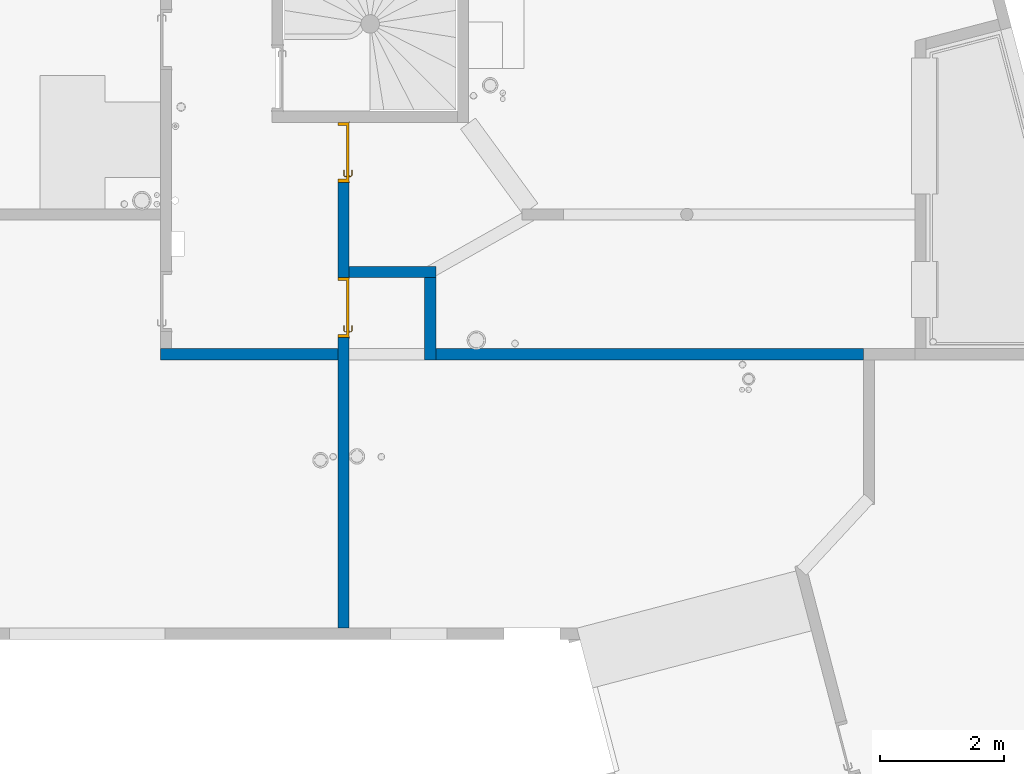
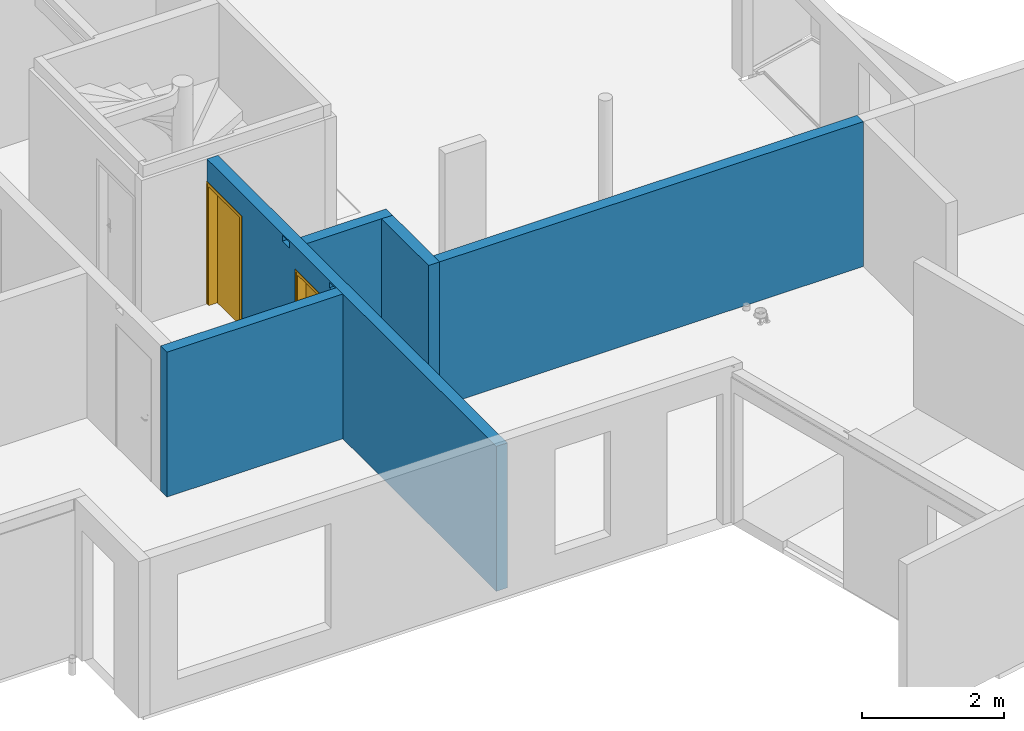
# One storey, part 13 of 24: 5 walls, 2 doors, 4 openings.
"""IFC2X3 building model written with IfcOpenShell, lengths in centimetres."""

from ifc_helpers import new_model, entity, si_unit, converted_unit, derived_unit, direction, frame, frame_2d, origin, place, context, subcontext, project, spatial, rectangle, extrude, faceted_brep, source, transform, mapped, material, material_list, layer, layer_set, layer_usage, type_object, type_shapes, element, fill, save


model = new_model("IFC2X3")

# Units and contexts
model_context = context("Model", 3, precision=0.001, world=origin(), true_north=direction((6.12303176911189e-17, 1.0)))
body_context = subcontext(model_context, "Body", "Model", "MODEL_VIEW")
ifc_project = project(units=[si_unit("LENGTHUNIT", "METRE", prefix="CENTI"), si_unit("AREAUNIT", "SQUARE_METRE"), si_unit("VOLUMEUNIT", "CUBIC_METRE"), converted_unit("PLANEANGLEUNIT", "DEGREE", entity("IfcRatioMeasure", 0.0174532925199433), si_unit("PLANEANGLEUNIT", "RADIAN"), dimensions=[0, 0, 0, 0, 0, 0, 0]), si_unit("MASSUNIT", "GRAM", prefix="KILO"), derived_unit("MASSDENSITYUNIT", [(si_unit("MASSUNIT", "GRAM", prefix="KILO"), 1), (si_unit("LENGTHUNIT", "METRE"), -3)]), si_unit("TIMEUNIT", "SECOND"), si_unit("FREQUENCYUNIT", "HERTZ"), si_unit("THERMODYNAMICTEMPERATUREUNIT", "DEGREE_CELSIUS"), derived_unit("THERMALTRANSMITTANCEUNIT", [(si_unit("MASSUNIT", "GRAM", prefix="KILO"), 1), (si_unit("THERMODYNAMICTEMPERATUREUNIT", "KELVIN"), -1), (si_unit("TIMEUNIT", "SECOND"), -3)]), derived_unit("VOLUMETRICFLOWRATEUNIT", [(si_unit("LENGTHUNIT", "METRE"), 3), (si_unit("TIMEUNIT", "SECOND"), -1)]), si_unit("ELECTRICCURRENTUNIT", "AMPERE"), si_unit("ELECTRICVOLTAGEUNIT", "VOLT"), si_unit("POWERUNIT", "WATT"), si_unit("FORCEUNIT", "NEWTON"), si_unit("ILLUMINANCEUNIT", "LUX"), si_unit("LUMINOUSFLUXUNIT", "LUMEN"), si_unit("LUMINOUSINTENSITYUNIT", "CANDELA"), derived_unit("USERDEFINED", [(si_unit("MASSUNIT", "GRAM", prefix="KILO"), -1), (si_unit("LENGTHUNIT", "METRE"), -2), (si_unit("TIMEUNIT", "SECOND"), 3), (si_unit("LUMINOUSFLUXUNIT", "LUMEN"), 1)]), derived_unit("LINEARVELOCITYUNIT", [(si_unit("LENGTHUNIT", "METRE"), 1), (si_unit("TIMEUNIT", "SECOND"), -1)]), si_unit("PRESSUREUNIT", "PASCAL"), derived_unit("USERDEFINED", [(si_unit("LENGTHUNIT", "METRE"), -2), (si_unit("MASSUNIT", "GRAM", prefix="KILO"), 1), (si_unit("TIMEUNIT", "SECOND"), -2)])], contexts=[model_context])

# Site, building, storey
site_placement = place(None, origin())
site = spatial("IfcSite", under=ifc_project, at=site_placement, Name="Default", CompositionType="ELEMENT")
building_placement = place(site_placement, origin())
building = spatial("IfcBuilding", under=site, at=building_placement, Name="CAGE 03", CompositionType="ELEMENT")
storey_placement = place(building_placement, frame((0.0, 0.0, 1150.0)))
storey = spatial("IfcBuildingStorey", under=building, at=storey_placement, Name="R+4", CompositionType="ELEMENT", Elevation=1150.0)

# Wall
ifc_material_1 = material(Name="Béton, C25/30")
ifc_layer = layer(ifc_material_1, 18.0)
ifc_layer_set = layer_set([ifc_layer], Name="Mur de base:Voile BA 18")
ifc_layer_usage_1 = layer_usage(ifc_layer_set, "AXIS2", "POSITIVE", -9.0)
wall_type = type_object("IfcWallType", Name="Mur de base:Voile BA 18", PredefinedType="STANDARD", material=ifc_layer_set)
wall_1_placement = place(storey_placement, frame((10455.3658201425, 4390.66066607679, 0.0), z_axis=(0.0, 0.0, 1.0), x_axis=(-1.0, 0.0, 0.0)))
element("IfcWallStandardCase", 1, at=wall_1_placement, inside=storey, type_object=wall_type, material=ifc_layer_usage_1, Name="Mur de base:Voile BA 18", ObjectType="Mur de base:Voile BA 18", context=body_context, shape_type="SweptSolid", body=[
    extrude(rectangle(XDim=139.999999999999, YDim=17.9999999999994, at=frame_2d((69.9999999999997, -1.81188397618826e-13), x_axis=(-1.0, 0.0))), origin(), (0.0, 0.0, 1.0), 250.0),
])

# Wall, openings, doors
ifc_layer_usage_2 = layer_usage(ifc_layer_set, "AXIS2", "POSITIVE", -9.0)
wall_2_placement = place(storey_placement, frame((10306.3658201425, 4632.66066607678, 0.0), z_axis=(0.0, 0.0, 1.0), x_axis=(0.0, -1.0, 0.0)))
wall_2 = element("IfcWallStandardCase", 2, at=wall_2_placement, inside=storey, type_object=wall_type, material=ifc_layer_usage_2, Name="Mur de base:Voile BA 18", ObjectType="Mur de base:Voile BA 18", context=body_context, shape_type="SweptSolid", body=[
    extrude(rectangle(XDim=817.999999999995, YDim=17.9999999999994, at=frame_2d((408.999999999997, 5.23137089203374e-13), x_axis=(-1.0, 0.0))), origin(), (0.0, 0.0, 1.0), 250.0),
])
opening_1_placement = place(wall_2_placement, origin())
element("IfcOpeningElement", 3, at=opening_1_placement, cuts=wall_2, Name="Mur de base:Voile BA 18", ObjectType="Opening", context=body_context, shape_type="SweptSolid", body=[
    extrude(rectangle(XDim=10.0000000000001, YDim=19.9999999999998, at=frame_2d((-4.33431068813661e-13, 1.08357767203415e-13), x_axis=(0.0, 1.0))), frame((223.0, -9.0, 242.5), z_axis=(0.0, 1.0, 0.0), x_axis=(1.0, 0.0, 0.0)), (0.0, 0.0, 1.0), 17.9999999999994),
])
opening_2_placement = place(wall_2_placement, origin())
element("IfcOpeningElement", 4, at=opening_2_placement, cuts=wall_2, Name="Mur de base:Voile BA 18", ObjectType="Opening", context=body_context, shape_type="SweptSolid", body=[
    extrude(rectangle(XDim=10.0000000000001, YDim=19.9999999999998, at=frame_2d((4.33431068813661e-13, 1.08357767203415e-13), x_axis=(0.0, 1.0))), frame((356.0, -9.0, 242.5), z_axis=(0.0, 1.0, 0.0), x_axis=(1.0, 0.0, 0.0)), (0.0, 0.0, 1.0), 17.9999999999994),
])
opening_3_placement = place(wall_2_placement, frame((251.0, -9.0, 0.0)))
opening_3 = element("IfcOpeningElement", 5, at=opening_3_placement, cuts=wall_2, Name="Int. Simple:HB93:1", ObjectType="Opening", context=body_context, shape_type="SweptSolid", body=[
    extrude(rectangle(XDim=210.000000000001, YDim=96.9999999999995, at=frame_2d((105.000000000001, 48.4999999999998), x_axis=(1.0, 0.0))), frame((0.0, 0.0, 0.0), z_axis=(0.0, 1.0, 0.0), x_axis=(0.0, 0.0, 1.0)), (0.0, 0.0, 1.0), 18.0),
])
opening_4_placement = place(wall_2_placement, frame((0.0, -9.0, 0.0)))
opening_4 = element("IfcOpeningElement", 6, at=opening_4_placement, cuts=wall_2, Name="Int. Simple:HB93:1", ObjectType="Opening", context=body_context, shape_type="SweptSolid", body=[
    extrude(rectangle(XDim=210.000000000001, YDim=96.9999999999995, at=frame_2d((105.000000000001, 48.4999999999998), x_axis=(1.0, 0.0))), frame((0.0, 0.0, 0.0), z_axis=(0.0, 1.0, 0.0), x_axis=(0.0, 0.0, 1.0)), (0.0, 0.0, 1.0), 18.0),
])
ifc_material_2 = material(Name="Finition Peinture - Blanc satiné")
ifc_material_3 = material(Name="Bois - Panneau de porte")
ifc_material_4 = material(Name="Bois - Cadre de porte")
ifc_material_list_1 = material_list([ifc_material_2, ifc_material_3, ifc_material_4])
ifc_material_list_2 = material_list([ifc_material_2, ifc_material_3, ifc_material_4])
door_style = type_object("IfcDoorStyle", Name="HB93", ConstructionType="NOTDEFINED", OperationType="SINGLE_SWING_LEFT", ParameterTakesPrecedence=False, Sizeable=False, material=ifc_material_list_2)
shared_shape = source(origin(), body_context, "Body", "Brep", [
    faceted_brep([(10.5352761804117, -0.500000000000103, 86.6003983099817), (11.5000000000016, -0.500000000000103, 87.0), (11.5000000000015, -0.500000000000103, 108.0), (10.5352761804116, -0.500000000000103, 108.399601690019), (9.50000000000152, -0.500000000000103, 108.535898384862), (8.46472381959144, -0.500000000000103, 108.399601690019), (7.50000000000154, -0.500000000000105, 108.0), (7.50000000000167, -0.500000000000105, 87.0), (8.46472381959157, -0.500000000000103, 86.6003983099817), (9.50000000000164, -0.500000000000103, 86.464101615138), (10.5352761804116, 0.0, 108.399601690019), (11.5000000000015, 0.0, 108.0), (11.5000000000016, 0.0, 87.0), (10.5352761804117, 0.0, 86.6003983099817), (9.50000000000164, 0.0, 86.464101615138), (8.46472381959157, 0.0, 86.6003983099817), (7.50000000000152, 0.0, 87.0), (7.50000000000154, 0.0, 108.0), (8.46472381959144, 0.0, 108.399601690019), (9.50000000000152, 0.0, 108.535898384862)], [[[0, 1, 2, 3, 4, 5, 6, 7, 8, 9]], [[10, 11, 12, 13, 14, 15, 16, 17, 18, 19]], [[16, 15, 8, 7]], [[8, 15, 14, 9]], [[14, 13, 0, 9]], [[13, 12, 1, 0]], [[2, 1, 12, 11]], [[11, 10, 3, 2]], [[3, 10, 19, 4]], [[19, 18, 5, 4]], [[18, 17, 6, 5]], [[7, 6, 17, 16]]]),
    faceted_brep([(10.5352761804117, 4.0, 86.6003983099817), (11.5000000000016, 4.0, 87.0), (11.5000000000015, 4.0, 108.0), (10.5352761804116, 4.0, 108.399601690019), (9.50000000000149, 4.0, 108.535898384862), (8.46472381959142, 4.0, 108.399601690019), (7.50000000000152, 4.0, 108.0), (7.50000000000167, 4.0, 87.0), (8.46472381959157, 4.0, 86.6003983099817), (9.50000000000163, 4.0, 86.464101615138), (10.5352761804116, 4.49999999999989, 108.399601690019), (11.5000000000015, 4.4999999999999, 108.0), (11.5000000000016, 4.4999999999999, 87.0), (10.5352761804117, 4.49999999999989, 86.6003983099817), (9.50000000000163, 4.49999999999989, 86.464101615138), (8.46472381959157, 4.49999999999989, 86.6003983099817), (7.50000000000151, 4.49999999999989, 87.0), (7.50000000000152, 4.49999999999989, 108.0), (8.46472381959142, 4.49999999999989, 108.399601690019), (9.50000000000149, 4.49999999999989, 108.535898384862)], [[[0, 1, 2, 3, 4, 5, 6, 7, 8, 9]], [[10, 11, 12, 13, 14, 15, 16, 17, 18, 19]], [[11, 10, 3, 2]], [[3, 10, 19, 4]], [[19, 18, 5, 4]], [[18, 17, 6, 5]], [[7, 6, 17, 16]], [[16, 15, 8, 7]], [[8, 15, 14, 9]], [[14, 13, 0, 9]], [[13, 12, 1, 0]], [[2, 1, 12, 11]]]),
    faceted_brep([(9.29747013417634, -0.500000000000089, 100.778044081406), (9.70252986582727, -0.500000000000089, 100.778044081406), (10.1000000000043, -0.500000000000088, 100.699999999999), (10.1000000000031, -0.500000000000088, 99.3000000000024), (9.70252986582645, -0.500000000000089, 99.2219559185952), (9.29747013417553, -0.500000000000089, 99.221955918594), (8.89999999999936, -0.500000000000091, 99.2999999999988), (8.89999999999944, -0.500000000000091, 100.7), (8.89999999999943, -3.26509507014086, 100.7), (9.29747013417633, -3.10045754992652, 100.778044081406), (10.9023585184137, -4.70534593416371, 100.778044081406), (11.0701397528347, -4.30028620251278, 100.778044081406), (9.70252986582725, -2.93267631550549, 100.778044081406), (10.1000000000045, -2.76803879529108, 100.7), (10.1000000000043, -2.76803879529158, 99.3000000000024), (9.70252986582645, -2.93267631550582, 99.2219559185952), (11.0701397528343, -4.30028620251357, 99.2219559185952), (10.9023585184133, -4.70534593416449, 99.221955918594), (9.29747013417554, -3.10045754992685, 99.221955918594), (8.89999999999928, -3.26509507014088, 99.2999999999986), (10.7377209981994, -5.1028160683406, 100.7), (11.2347772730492, -3.90281606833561, 100.7), (11.2347772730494, -3.90281606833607, 99.3000000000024), (10.7377209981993, -5.10281606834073, 99.2999999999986), (19.5018640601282, -5.1028160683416, 99.2999999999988), (19.5018640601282, -4.70534593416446, 99.221955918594), (19.5018640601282, -4.30028620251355, 99.2219559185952), (19.5018640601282, -3.90281606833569, 99.3000000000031), (19.5018640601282, -3.90281606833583, 100.7), (19.5018640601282, -4.30028620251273, 100.778044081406), (19.5018640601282, -4.70534593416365, 100.778044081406), (19.5018640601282, -5.10281606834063, 100.699999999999), (14.7307697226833, -5.10281606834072, 100.7), (15.28600190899, -4.5028160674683, 100.78786867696), (15.3683206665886, -3.9028160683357, 100.7), (15.3683206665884, -3.90281606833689, 99.3000000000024), (15.2860018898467, -4.50281607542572, 99.2121313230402), (14.7307700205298, -5.10281606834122, 99.2999999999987)], [[[0, 1, 2, 3, 4, 5, 6, 7]], [[8, 9, 0, 7]], [[9, 10, 11, 12, 1, 0]], [[12, 13, 2, 1]], [[3, 2, 13, 14]], [[14, 15, 4, 3]], [[15, 16, 17, 18, 5, 4]], [[18, 19, 6, 5]], [[7, 6, 19, 8]], [[20, 10, 9, 8]], [[11, 21, 13, 12]], [[14, 13, 21, 22]], [[22, 16, 15, 14]], [[17, 23, 19, 18]], [[8, 19, 23, 20]], [[24, 25, 26, 27, 28, 29, 30, 31]], [[32, 30, 33]], [[31, 30, 32]], [[10, 20, 32]], [[33, 34, 11]], [[21, 11, 34]], [[34, 29, 28]], [[30, 29, 33]], [[29, 34, 33]], [[10, 32, 33]], [[10, 33, 11]], [[22, 21, 34, 28, 27, 35]], [[35, 26, 36]], [[37, 36, 25]], [[22, 35, 16]], [[35, 27, 26]], [[24, 37, 25]], [[23, 17, 37]], [[37, 17, 36]], [[17, 16, 36]], [[16, 35, 36]], [[25, 36, 26]], [[20, 23, 37, 24, 31, 32]]]),
    faceted_brep([(9.29747013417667, 4.49999999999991, 100.778044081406), (8.89999999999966, 4.49999999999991, 100.7), (8.89999999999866, 4.49999999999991, 99.2999999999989), (9.2974701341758, 4.49999999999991, 99.221955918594), (9.70252986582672, 4.49999999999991, 99.2219559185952), (10.1000000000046, 4.49999999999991, 99.3000000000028), (10.1000000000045, 4.49999999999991, 100.7), (9.70252986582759, 4.49999999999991, 100.778044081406), (10.1000000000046, 6.7485204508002, 99.3000000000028), (10.1000000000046, 6.74852045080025, 100.7), (9.70252986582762, 6.91315797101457, 100.778044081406), (11.0838906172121, 8.29451872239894, 100.778044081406), (10.9161093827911, 8.69957845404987, 100.778044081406), (9.29747013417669, 7.0809392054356, 100.778044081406), (8.89999999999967, 7.24557672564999, 100.7), (8.89999999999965, 7.24557672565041, 99.2999999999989), (9.29747013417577, 7.08093920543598, 99.221955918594), (10.9161093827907, 8.69957845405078, 99.221955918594), (11.0838906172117, 8.29451872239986, 99.2219559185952), (9.7025298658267, 6.91315797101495, 99.2219559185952), (11.2485281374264, 7.89704858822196, 99.3000000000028), (11.2485281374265, 7.89704858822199, 100.7), (10.7514718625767, 9.0970485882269, 100.7), (10.751471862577, 9.0970485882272, 99.2999999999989), (19.504578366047, 7.89704858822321, 99.3000000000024), (19.504578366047, 8.29451872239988, 99.2219559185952), (19.504578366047, 8.6995784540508, 99.221955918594), (19.504578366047, 9.09704858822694, 99.2999999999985), (19.504578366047, 9.09704858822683, 100.7), (19.504578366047, 8.69957845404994, 100.778044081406), (19.504578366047, 8.29451872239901, 100.778044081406), (19.504578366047, 7.89704858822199, 100.7), (15.3765520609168, 7.89704858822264, 99.3000000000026), (15.3765532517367, 7.89704858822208, 100.7), (15.294234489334, 8.49704858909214, 100.78786867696), (14.7445205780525, 9.09704858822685, 100.7), (14.7445204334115, 9.09704858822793, 99.2999999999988), (15.2942345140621, 8.49704858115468, 99.2121313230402)], [[[0, 1, 2, 3, 4, 5, 6, 7]], [[6, 5, 8, 9]], [[9, 10, 7, 6]], [[10, 11, 12, 13, 0, 7]], [[13, 14, 1, 0]], [[2, 1, 14, 15]], [[15, 16, 3, 2]], [[16, 17, 18, 19, 4, 3]], [[19, 8, 5, 4]], [[9, 8, 20, 21]], [[21, 11, 10, 9]], [[12, 22, 14, 13]], [[15, 14, 22, 23]], [[23, 17, 16, 15]], [[18, 20, 8, 19]], [[24, 25, 26, 27, 28, 29, 30, 31]], [[21, 20, 32, 24, 31, 33]], [[33, 30, 34]], [[35, 34, 29]], [[21, 33, 11]], [[33, 31, 30]], [[28, 35, 29]], [[22, 12, 35]], [[35, 12, 34]], [[12, 11, 34]], [[11, 33, 34]], [[29, 34, 30]], [[22, 35, 28, 27, 36, 23]], [[36, 26, 37]], [[27, 26, 36]], [[17, 23, 36]], [[37, 32, 18]], [[20, 18, 32]], [[32, 25, 24]], [[26, 25, 37]], [[25, 32, 37]], [[17, 36, 37]], [[17, 37, 18]]]),
    faceted_brep([(3.50000000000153, 4.0, 206.5), (93.5000000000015, 4.0, 206.5), (93.5000000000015, 4.0, 0.0), (3.50000000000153, 4.0, 0.0), (3.50000000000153, 0.0, 206.5), (3.50000000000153, 0.0, 0.0), (93.5000000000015, 0.0, 0.0), (93.5000000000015, 0.0, 206.5)], [[[0, 1, 2, 3]], [[4, 5, 6, 7]], [[1, 0, 4, 7]], [[2, 1, 7, 6]], [[3, 2, 6, 5]], [[0, 3, 5, 4]]]),
    faceted_brep([(0.0, 0.0, 0.0), (0.0, 18.0, 0.0), (5.0, 18.0, 0.0), (5.0, 4.0, 0.0), (3.50000000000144, 4.0, 0.0), (3.50000000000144, 0.0, 0.0), (0.0, 0.0, 210.0), (0.0, 18.0, 210.0), (97.0, 18.0, 210.0), (97.0, 18.0, 0.0), (92.0, 18.0, 0.0), (92.0, 18.0, 205.0), (5.0, 18.0, 205.0), (5.0, 4.0, 205.0), (92.0, 4.0, 205.0), (92.0, 4.0, 0.0), (93.4999999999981, 4.0, 0.0), (93.4999999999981, 4.0, 206.5), (3.50000000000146, 4.0, 206.5), (3.50000000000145, 0.0, 206.5), (93.4999999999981, 0.0, 206.5), (93.4999999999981, 0.0, 0.0), (97.0, 0.0, 0.0), (97.0, 0.0, 210.0)], [[[0, 1, 2, 3, 4, 5]], [[1, 0, 6, 7]], [[2, 1, 7, 8, 9, 10, 11, 12]], [[3, 2, 12, 13]], [[4, 3, 13, 14, 15, 16, 17, 18]], [[5, 4, 18, 19]], [[0, 5, 19, 20, 21, 22, 23, 6]], [[8, 23, 22, 9]], [[22, 21, 16, 15, 10, 9]], [[14, 11, 10, 15]], [[20, 17, 16, 21]], [[7, 6, 23, 8]], [[13, 12, 11, 14]], [[19, 18, 17, 20]]]),
    faceted_brep([(1.5, 18.0, 0.0), (-1.49999999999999, 18.0, 0.0), (-1.49999999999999, 18.5000000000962, 0.0), (1.5, 18.5000000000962, 0.0), (1.5, 18.0, 208.500000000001), (95.4999999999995, 18.0, 208.500000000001), (95.4999999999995, 18.0, 0.0), (98.4999999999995, 18.0, 0.0), (98.4999999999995, 18.0, 211.500000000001), (-1.49999999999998, 18.0, 211.500000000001), (-1.49999999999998, 18.5000000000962, 211.500000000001), (98.4999999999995, 18.5000000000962, 211.500000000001), (98.4999999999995, 18.5000000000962, 0.0), (95.4999999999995, 18.5000000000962, 0.0), (95.4999999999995, 18.5000000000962, 208.500000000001), (1.50000000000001, 18.5000000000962, 208.500000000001)], [[[0, 1, 2, 3]], [[1, 0, 4, 5, 6, 7, 8, 9]], [[2, 1, 9, 10]], [[3, 2, 10, 11, 12, 13, 14, 15]], [[0, 3, 15, 4]], [[6, 13, 12, 7]], [[5, 14, 13, 6]], [[11, 8, 7, 12]], [[10, 9, 8, 11]], [[4, 15, 14, 5]]]),
    faceted_brep([(-1.49999999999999, -0.5, 0.0), (1.5, -0.5, 0.0), (1.5, -0.5, 208.500000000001), (95.4999999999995, -0.5, 208.500000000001), (95.4999999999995, -0.5, 0.0), (98.4999999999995, -0.5, 0.0), (98.4999999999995, -0.5, 211.500000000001), (-1.49999999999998, -0.5, 211.500000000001), (-1.49999999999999, 0.0, 0.0), (-1.49999999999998, 0.0, 211.500000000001), (1.5, 0.0, 0.0), (98.4999999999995, 0.0, 211.500000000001), (98.4999999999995, 0.0, 0.0), (95.4999999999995, 0.0, 0.0), (95.4999999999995, 0.0, 208.500000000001), (1.50000000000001, 0.0, 208.500000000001)], [[[0, 1, 2, 3, 4, 5, 6, 7]], [[8, 0, 7, 9]], [[10, 8, 9, 11, 12, 13, 14, 15]], [[1, 10, 15, 2]], [[3, 14, 13, 4]], [[11, 6, 5, 12]], [[9, 7, 6, 11]], [[2, 15, 14, 3]], [[4, 13, 12, 5]], [[1, 0, 8, 10]]]),
])
type_shapes(door_style, [shared_shape])
door_1_placement = place(opening_3_placement, frame((97.0, 18.0, 0.0), z_axis=(0.0, 0.0, 1.0), x_axis=(-1.0, 0.0, 0.0)))
door_1 = element("IfcDoor", 7, at=door_1_placement, inside=storey, type_object=door_style, material=ifc_material_list_1, Name="Int. Simple:HB93", ObjectType="HB93", OverallHeight=210.000000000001, OverallWidth=96.9999999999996, context=body_context, shape_type="MappedRepresentation", body=[
    mapped(shared_shape, transform((0.0, 0.0, 0.0), scale=1.0)),
])
fill(opening_3, door_1)
ifc_material_list_3 = material_list([ifc_material_2, ifc_material_3, ifc_material_4])
door_2_placement = place(opening_4_placement, frame((97.0, 18.0, 0.0), z_axis=(0.0, 0.0, 1.0), x_axis=(-1.0, 0.0, 0.0)))
door_2 = element("IfcDoor", 8, at=door_2_placement, inside=storey, type_object=door_style, material=ifc_material_list_3, Name="Int. Simple:HB93", ObjectType="HB93", OverallHeight=210.000000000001, OverallWidth=96.9999999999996, context=body_context, shape_type="MappedRepresentation", body=[
    mapped(shared_shape, transform((0.0, 0.0, 0.0), scale=1.0)),
])
fill(opening_4, door_2)

# Walls
ifc_layer_usage_3 = layer_usage(ifc_layer_set, "AXIS2", "POSITIVE", -9.0)
wall_3_placement = place(storey_placement, frame((10446.3658201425, 4381.66066607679, 0.0), z_axis=(0.0, 0.0, 1.0), x_axis=(0.0, -1.0, 0.0)))
element("IfcWallStandardCase", 9, at=wall_3_placement, inside=storey, type_object=wall_type, material=ifc_layer_usage_3, Name="Mur de base:Voile BA 18", ObjectType="Mur de base:Voile BA 18", context=body_context, shape_type="SweptSolid", body=[
    extrude(rectangle(XDim=133.0, YDim=17.9999999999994, at=frame_2d((66.5, 2.70894418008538e-13), x_axis=(-1.0, 0.0))), origin(), (0.0, 0.0, 1.0), 250.0),
])
ifc_layer_usage_4 = layer_usage(ifc_layer_set, "AXIS2", "POSITIVE", -9.0)
wall_4_placement = place(storey_placement, frame((10297.3658201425, 4257.66066607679, 0.0), z_axis=(0.0, 0.0, 1.0), x_axis=(-1.0, 0.0, 0.0)))
element("IfcWallStandardCase", 10, at=wall_4_placement, inside=storey, type_object=wall_type, material=ifc_layer_usage_4, Name="Mur de base:Voile BA 18", ObjectType="Mur de base:Voile BA 18", context=body_context, shape_type="SweptSolid", body=[
    extrude(rectangle(XDim=287.000000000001, YDim=17.9999999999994, at=frame_2d((143.5, -1.60760293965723e-13), x_axis=(-1.0, 0.0))), origin(), (0.0, 0.0, 1.0), 250.0),
])
ifc_layer_usage_5 = layer_usage(ifc_layer_set, "AXIS2", "POSITIVE", -9.0)
wall_5_placement = place(storey_placement, frame((11146.8658201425, 4257.66066607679, 0.0), z_axis=(0.0, 0.0, 1.0), x_axis=(-1.0, 0.0, 0.0)))
element("IfcWallStandardCase", 11, at=wall_5_placement, inside=storey, type_object=wall_type, material=ifc_layer_usage_5, Name="Mur de base:Voile BA 18", ObjectType="Mur de base:Voile BA 18", context=body_context, shape_type="SweptSolid", body=[
    extrude(rectangle(XDim=691.499999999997, YDim=17.9999999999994, at=frame_2d((345.749999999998, -5.86197757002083e-14), x_axis=(-1.0, 0.0))), origin(), (0.0, 0.0, 1.0), 250.0),
])

save(model, "model.ifc")
